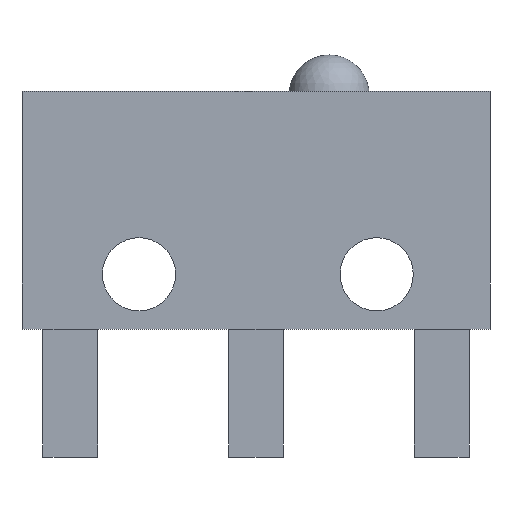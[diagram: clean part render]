
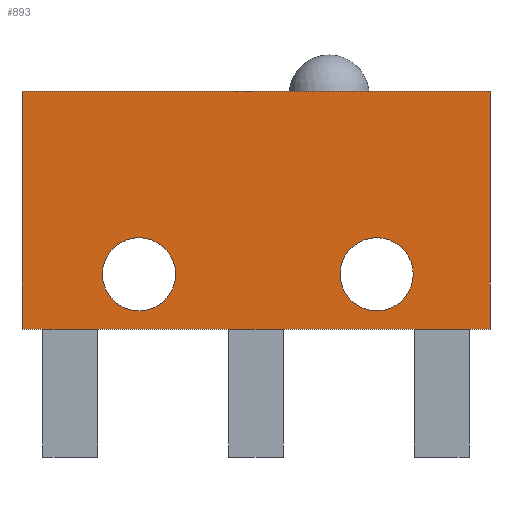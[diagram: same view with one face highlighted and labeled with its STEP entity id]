
A CAD part, left-side view. The second image highlights one B-rep face of the part: STEP entity #893.
In plain terms, the highlighted planar face has unit normal (-1, 0, 0).
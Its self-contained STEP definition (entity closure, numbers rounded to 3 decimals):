
#44 = PLANE('',#45);
#45 = AXIS2_PLACEMENT_3D('',#46,#47,#48);
#46 = CARTESIAN_POINT('',(2.5,37.1,9.05));
#47 = DIRECTION('',(-0.,1.,0.));
#48 = DIRECTION('',(0.,0.,-1.));
#72 = PLANE('',#73);
#73 = AXIS2_PLACEMENT_3D('',#74,#75,#76);
#74 = CARTESIAN_POINT('',(2.5,37.1,9.05));
#75 = DIRECTION('',(0.,0.,1.));
#76 = DIRECTION('',(1.,0.,0.));
#100 = PLANE('',#101);
#101 = AXIS2_PLACEMENT_3D('',#102,#103,#104);
#102 = CARTESIAN_POINT('',(2.5,49.9,9.05));
#103 = DIRECTION('',(-0.,1.,0.));
#104 = DIRECTION('',(0.,0.,-1.));
#126 = PLANE('',#127);
#127 = AXIS2_PLACEMENT_3D('',#128,#129,#130);
#128 = CARTESIAN_POINT('',(2.5,37.1,15.55));
#129 = DIRECTION('',(0.,0.,1.));
#130 = DIRECTION('',(1.,0.,0.));
#161 = CYLINDRICAL_SURFACE('',#162,1.);
#162 = AXIS2_PLACEMENT_3D('',#163,#164,#165);
#163 = CARTESIAN_POINT('',(5.,46.7,10.55));
#164 = DIRECTION('',(-1.,-0.,-0.));
#165 = DIRECTION('',(-0.,-0.,1.));
#196 = CYLINDRICAL_SURFACE('',#197,1.);
#197 = AXIS2_PLACEMENT_3D('',#198,#199,#200);
#198 = CARTESIAN_POINT('',(5.,40.2,10.55));
#199 = DIRECTION('',(-1.,-0.,-0.));
#200 = DIRECTION('',(-0.,-0.,1.));
#212 = VERTEX_POINT('',#213);
#213 = CARTESIAN_POINT('',(-3.3,37.1,9.05));
#236 = VERTEX_POINT('',#237);
#237 = CARTESIAN_POINT('',(-3.3,37.1,15.55));
#258 = EDGE_CURVE('',#212,#236,#259,.T.);
#259 = SURFACE_CURVE('',#260,(#264,#271),.PCURVE_S1.);
#260 = LINE('',#261,#262);
#261 = CARTESIAN_POINT('',(-3.3,37.1,9.05));
#262 = VECTOR('',#263,1.);
#263 = DIRECTION('',(0.,0.,1.));
#264 = PCURVE('',#44,#265);
#265 = DEFINITIONAL_REPRESENTATION('',(#266),#270);
#266 = LINE('',#267,#268);
#267 = CARTESIAN_POINT('',(-0.,5.8));
#268 = VECTOR('',#269,1.);
#269 = DIRECTION('',(-1.,0.));
#270 = ( GEOMETRIC_REPRESENTATION_CONTEXT(2) 
PARAMETRIC_REPRESENTATION_CONTEXT() REPRESENTATION_CONTEXT('2D SPACE',''
  ) );
#271 = PCURVE('',#272,#277);
#272 = PLANE('',#273);
#273 = AXIS2_PLACEMENT_3D('',#274,#275,#276);
#274 = CARTESIAN_POINT('',(-3.3,37.1,9.05));
#275 = DIRECTION('',(-1.,-0.,0.));
#276 = DIRECTION('',(0.,0.,-1.));
#277 = DEFINITIONAL_REPRESENTATION('',(#278),#282);
#278 = LINE('',#279,#280);
#279 = CARTESIAN_POINT('',(-0.,-0.));
#280 = VECTOR('',#281,1.);
#281 = DIRECTION('',(-1.,-0.));
#282 = ( GEOMETRIC_REPRESENTATION_CONTEXT(2) 
PARAMETRIC_REPRESENTATION_CONTEXT() REPRESENTATION_CONTEXT('2D SPACE',''
  ) );
#289 = EDGE_CURVE('',#236,#290,#292,.T.);
#290 = VERTEX_POINT('',#291);
#291 = CARTESIAN_POINT('',(-3.3,49.9,15.55));
#292 = SURFACE_CURVE('',#293,(#297,#304),.PCURVE_S1.);
#293 = LINE('',#294,#295);
#294 = CARTESIAN_POINT('',(-3.3,37.1,15.55));
#295 = VECTOR('',#296,1.);
#296 = DIRECTION('',(-0.,1.,0.));
#297 = PCURVE('',#126,#298);
#298 = DEFINITIONAL_REPRESENTATION('',(#299),#303);
#299 = LINE('',#300,#301);
#300 = CARTESIAN_POINT('',(-5.8,0.));
#301 = VECTOR('',#302,1.);
#302 = DIRECTION('',(-0.,1.));
#303 = ( GEOMETRIC_REPRESENTATION_CONTEXT(2) 
PARAMETRIC_REPRESENTATION_CONTEXT() REPRESENTATION_CONTEXT('2D SPACE',''
  ) );
#304 = PCURVE('',#272,#305);
#305 = DEFINITIONAL_REPRESENTATION('',(#306),#310);
#306 = LINE('',#307,#308);
#307 = CARTESIAN_POINT('',(-6.5,-0.));
#308 = VECTOR('',#309,1.);
#309 = DIRECTION('',(-0.,-1.));
#310 = ( GEOMETRIC_REPRESENTATION_CONTEXT(2) 
PARAMETRIC_REPRESENTATION_CONTEXT() REPRESENTATION_CONTEXT('2D SPACE',''
  ) );
#373 = EDGE_CURVE('',#212,#374,#376,.T.);
#374 = VERTEX_POINT('',#375);
#375 = CARTESIAN_POINT('',(-3.3,49.9,9.05));
#376 = SURFACE_CURVE('',#377,(#381,#388),.PCURVE_S1.);
#377 = LINE('',#378,#379);
#378 = CARTESIAN_POINT('',(-3.3,37.1,9.05));
#379 = VECTOR('',#380,1.);
#380 = DIRECTION('',(-0.,1.,0.));
#381 = PCURVE('',#72,#382);
#382 = DEFINITIONAL_REPRESENTATION('',(#383),#387);
#383 = LINE('',#384,#385);
#384 = CARTESIAN_POINT('',(-5.8,0.));
#385 = VECTOR('',#386,1.);
#386 = DIRECTION('',(-0.,1.));
#387 = ( GEOMETRIC_REPRESENTATION_CONTEXT(2) 
PARAMETRIC_REPRESENTATION_CONTEXT() REPRESENTATION_CONTEXT('2D SPACE',''
  ) );
#388 = PCURVE('',#272,#389);
#389 = DEFINITIONAL_REPRESENTATION('',(#390),#394);
#390 = LINE('',#391,#392);
#391 = CARTESIAN_POINT('',(-0.,-0.));
#392 = VECTOR('',#393,1.);
#393 = DIRECTION('',(-0.,-1.));
#394 = ( GEOMETRIC_REPRESENTATION_CONTEXT(2) 
PARAMETRIC_REPRESENTATION_CONTEXT() REPRESENTATION_CONTEXT('2D SPACE',''
  ) );
#765 = EDGE_CURVE('',#374,#290,#766,.T.);
#766 = SURFACE_CURVE('',#767,(#771,#778),.PCURVE_S1.);
#767 = LINE('',#768,#769);
#768 = CARTESIAN_POINT('',(-3.3,49.9,9.05));
#769 = VECTOR('',#770,1.);
#770 = DIRECTION('',(0.,0.,1.));
#771 = PCURVE('',#100,#772);
#772 = DEFINITIONAL_REPRESENTATION('',(#773),#777);
#773 = LINE('',#774,#775);
#774 = CARTESIAN_POINT('',(-0.,5.8));
#775 = VECTOR('',#776,1.);
#776 = DIRECTION('',(-1.,0.));
#777 = ( GEOMETRIC_REPRESENTATION_CONTEXT(2) 
PARAMETRIC_REPRESENTATION_CONTEXT() REPRESENTATION_CONTEXT('2D SPACE',''
  ) );
#778 = PCURVE('',#272,#779);
#779 = DEFINITIONAL_REPRESENTATION('',(#780),#784);
#780 = LINE('',#781,#782);
#781 = CARTESIAN_POINT('',(-0.,-12.8));
#782 = VECTOR('',#783,1.);
#783 = DIRECTION('',(-1.,-0.));
#784 = ( GEOMETRIC_REPRESENTATION_CONTEXT(2) 
PARAMETRIC_REPRESENTATION_CONTEXT() REPRESENTATION_CONTEXT('2D SPACE',''
  ) );
#789 = EDGE_CURVE('',#790,#790,#792,.T.);
#790 = VERTEX_POINT('',#791);
#791 = CARTESIAN_POINT('',(-3.3,46.7,11.55));
#792 = SURFACE_CURVE('',#793,(#798,#805),.PCURVE_S1.);
#793 = CIRCLE('',#794,1.);
#794 = AXIS2_PLACEMENT_3D('',#795,#796,#797);
#795 = CARTESIAN_POINT('',(-3.3,46.7,10.55));
#796 = DIRECTION('',(1.,-0.,0.));
#797 = DIRECTION('',(-0.,-0.,1.));
#798 = PCURVE('',#161,#799);
#799 = DEFINITIONAL_REPRESENTATION('',(#800),#804);
#800 = LINE('',#801,#802);
#801 = CARTESIAN_POINT('',(-0.,8.3));
#802 = VECTOR('',#803,1.);
#803 = DIRECTION('',(-1.,0.));
#804 = ( GEOMETRIC_REPRESENTATION_CONTEXT(2) 
PARAMETRIC_REPRESENTATION_CONTEXT() REPRESENTATION_CONTEXT('2D SPACE',''
  ) );
#805 = PCURVE('',#272,#806);
#806 = DEFINITIONAL_REPRESENTATION('',(#807),#815);
#807 = ( BOUNDED_CURVE() B_SPLINE_CURVE(2,(#808,#809,#810,#811,#812,#813
,#814),.UNSPECIFIED.,.T.,.F.) B_SPLINE_CURVE_WITH_KNOTS((1,2,2,2,2,1),(
    -2.094,0.,2.094,4.189,6.283,
8.378),.UNSPECIFIED.) CURVE() GEOMETRIC_REPRESENTATION_ITEM() 
RATIONAL_B_SPLINE_CURVE((1.,0.5,1.,0.5,1.,0.5,1.)) REPRESENTATION_ITEM(
  '') );
#808 = CARTESIAN_POINT('',(-2.5,-9.6));
#809 = CARTESIAN_POINT('',(-2.5,-7.868));
#810 = CARTESIAN_POINT('',(-1.,-8.734));
#811 = CARTESIAN_POINT('',(0.5,-9.6));
#812 = CARTESIAN_POINT('',(-1.,-10.466));
#813 = CARTESIAN_POINT('',(-2.5,-11.332));
#814 = CARTESIAN_POINT('',(-2.5,-9.6));
#815 = ( GEOMETRIC_REPRESENTATION_CONTEXT(2) 
PARAMETRIC_REPRESENTATION_CONTEXT() REPRESENTATION_CONTEXT('2D SPACE',''
  ) );
#843 = EDGE_CURVE('',#844,#844,#846,.T.);
#844 = VERTEX_POINT('',#845);
#845 = CARTESIAN_POINT('',(-3.3,40.2,11.55));
#846 = SURFACE_CURVE('',#847,(#852,#859),.PCURVE_S1.);
#847 = CIRCLE('',#848,1.);
#848 = AXIS2_PLACEMENT_3D('',#849,#850,#851);
#849 = CARTESIAN_POINT('',(-3.3,40.2,10.55));
#850 = DIRECTION('',(1.,-0.,0.));
#851 = DIRECTION('',(-0.,-0.,1.));
#852 = PCURVE('',#196,#853);
#853 = DEFINITIONAL_REPRESENTATION('',(#854),#858);
#854 = LINE('',#855,#856);
#855 = CARTESIAN_POINT('',(-0.,8.3));
#856 = VECTOR('',#857,1.);
#857 = DIRECTION('',(-1.,0.));
#858 = ( GEOMETRIC_REPRESENTATION_CONTEXT(2) 
PARAMETRIC_REPRESENTATION_CONTEXT() REPRESENTATION_CONTEXT('2D SPACE',''
  ) );
#859 = PCURVE('',#272,#860);
#860 = DEFINITIONAL_REPRESENTATION('',(#861),#869);
#861 = ( BOUNDED_CURVE() B_SPLINE_CURVE(2,(#862,#863,#864,#865,#866,#867
,#868),.UNSPECIFIED.,.T.,.F.) B_SPLINE_CURVE_WITH_KNOTS((1,2,2,2,2,1),(
    -2.094,0.,2.094,4.189,6.283,
8.378),.UNSPECIFIED.) CURVE() GEOMETRIC_REPRESENTATION_ITEM() 
RATIONAL_B_SPLINE_CURVE((1.,0.5,1.,0.5,1.,0.5,1.)) REPRESENTATION_ITEM(
  '') );
#862 = CARTESIAN_POINT('',(-2.5,-3.1));
#863 = CARTESIAN_POINT('',(-2.5,-1.368));
#864 = CARTESIAN_POINT('',(-1.,-2.234));
#865 = CARTESIAN_POINT('',(0.5,-3.1));
#866 = CARTESIAN_POINT('',(-1.,-3.966));
#867 = CARTESIAN_POINT('',(-2.5,-4.832));
#868 = CARTESIAN_POINT('',(-2.5,-3.1));
#869 = ( GEOMETRIC_REPRESENTATION_CONTEXT(2) 
PARAMETRIC_REPRESENTATION_CONTEXT() REPRESENTATION_CONTEXT('2D SPACE',''
  ) );
#893 = ADVANCED_FACE('',(#894,#900,#903),#272,.T.);
#894 = FACE_BOUND('',#895,.F.);
#895 = EDGE_LOOP('',(#896,#897,#898,#899));
#896 = ORIENTED_EDGE('',*,*,#258,.F.);
#897 = ORIENTED_EDGE('',*,*,#373,.T.);
#898 = ORIENTED_EDGE('',*,*,#765,.T.);
#899 = ORIENTED_EDGE('',*,*,#289,.F.);
#900 = FACE_BOUND('',#901,.F.);
#901 = EDGE_LOOP('',(#902));
#902 = ORIENTED_EDGE('',*,*,#789,.F.);
#903 = FACE_BOUND('',#904,.F.);
#904 = EDGE_LOOP('',(#905));
#905 = ORIENTED_EDGE('',*,*,#843,.F.);
